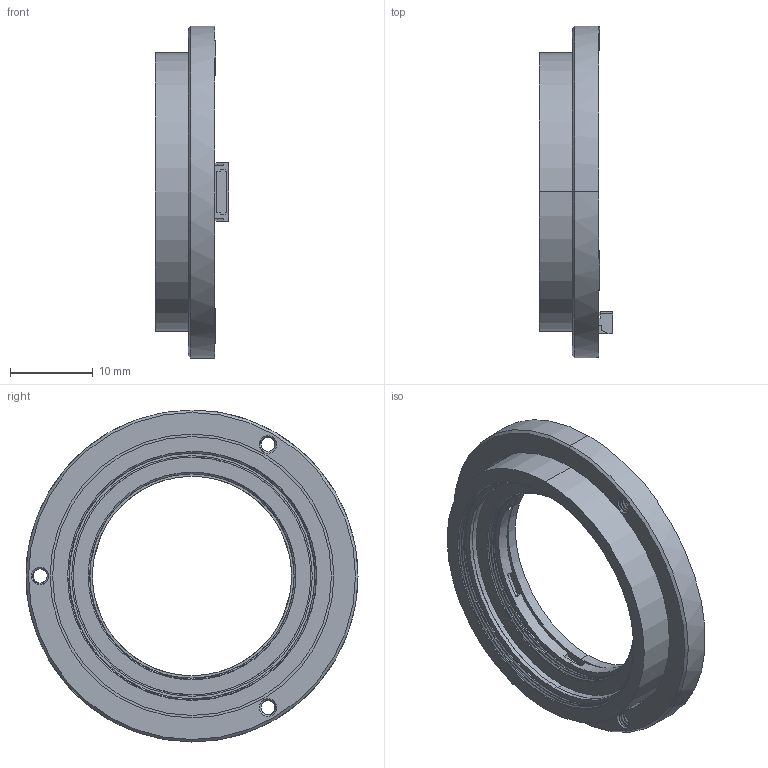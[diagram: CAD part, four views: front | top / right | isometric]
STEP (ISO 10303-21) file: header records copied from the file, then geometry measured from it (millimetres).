
FILE_DESCRIPTION (( 'STEP AP214' ), '1' );
FILE_NAME ('DPT-25-30-40 ¸üÐÂ.STEP', '2024-07-06T06:14:28', ( 'C' ), ( 'Microsoft' ), 'SwSTEP 2.0', 'SolidWorks 2016', '' );
FILE_SCHEMA (( 'AUTOMOTIVE_DESIGN' ));
Length unit declared in the file: millimetre
Products named in the file (1): DPT-25-30-40 載陔
Bounding box: 8.91 x 40 x 40 mm (x, y, z)
Volume: 3217.6 mm3; surface area: 5673.5 mm2
Topology: 8 solids, 8 shells, 430 faces, 1123 edges, 740 vertices
Faces by surface type: plane 196, cylinder 150, bspline 60, cone 24
Entity records: 21599 total; most frequent: CARTESIAN_POINT 9948, ORIENTED_EDGE 2246, DIRECTION 1747, EDGE_CURVE 1123, VERTEX_POINT 740, VECTOR 625, LINE 625, AXIS2_PLACEMENT_3D 561
